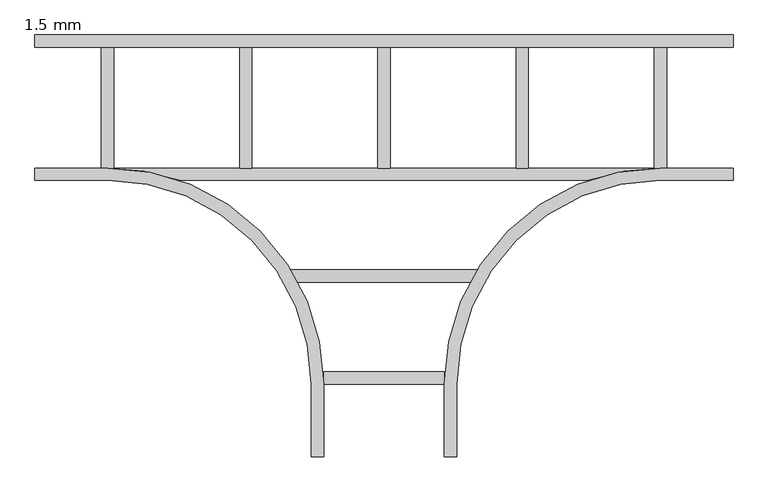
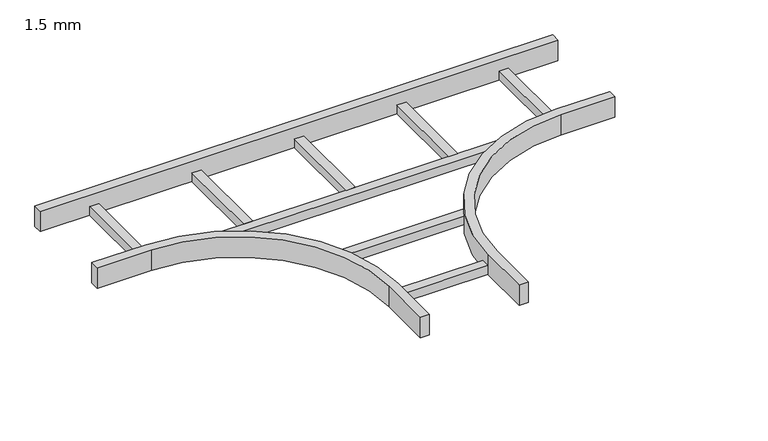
"""IFC4 building model written with IfcOpenShell, lengths in millimetres: cable carrier fitting geometry, BAKS_Trójnik_drabiny E90 : 1.5 mm."""

import ifcopenshell
import ifcopenshell.guid

model = None  # the IFC model being written
_history = None  # IfcOwnerHistory: only IFC2X3 demands one
_inside = {}  # id of a spatial element -> (the spatial element, [elements in it])
_under = {}  # id of a project, library or spatial element -> (it, [spatial elements below it])
_declared = {}  # id of a project -> (the project, [libraries it declares])
_typed = {}  # id of a type object -> (the type object, [elements of that type])
_made_of = {}  # id of a material, layer set ... -> (it, [elements and type objects made of it])


def new_model(schema):
    """Start an empty IFC model of exactly this schema.

    Asked for "IFC4X3", IfcOpenShell would pick the latest addendum, in which some entities
    have other attributes; the version numbers below select the first issue.
    IFC2X3 requires an IfcOwnerHistory on every rooted entity: one is made here for all.
    """
    global model, _history
    if schema == "IFC4X3":
        model = ifcopenshell.file(schema_version=(4, 3, 0, 0))
    else:
        model = ifcopenshell.file(schema=schema)
    _inside.clear()
    _under.clear()
    _declared.clear()
    _typed.clear()
    _made_of.clear()
    _history = None
    if model.schema == "IFC2X3":
        org = make("IfcOrganization", Name="unknown")
        user = make(
            "IfcPersonAndOrganization",
            ThePerson=make("IfcPerson", FamilyName="unknown"),
            TheOrganization=org,
        )
        app = make(
            "IfcApplication",
            ApplicationDeveloper=org,
            Version="unknown",
            ApplicationFullName="unknown",
            ApplicationIdentifier="unknown",
        )
        _history = make(
            "IfcOwnerHistory",
            OwningUser=user,
            OwningApplication=app,
            ChangeAction="ADDED",
            CreationDate=0,
        )
    return model


def make(cls, **values):
    """One entity of the class cls with the attributes given. An attribute that is None is left unset."""
    return model.create_entity(
        cls, **{name: value for name, value in values.items() if value is not None}
    )


def rooted(cls, **values):
    """An entity with a GlobalId (a new one), such as an element, a storey or a relation."""
    return make(cls, GlobalId=ifcopenshell.guid.new(), OwnerHistory=_history, **values)


def si_unit(unit_type, name, prefix=None):
    """IfcSIUnit, for example si_unit("LENGTHUNIT", "METRE", prefix="MILLI")."""
    return make("IfcSIUnit", UnitType=unit_type, Prefix=prefix, Name=name)


def assignment(units):
    """IfcUnitAssignment: the units of a project."""
    return None if units is None else make("IfcUnitAssignment", Units=units)


def point(xyz):
    """IfcCartesianPoint."""
    return None if xyz is None else make("IfcCartesianPoint", Coordinates=xyz)


def direction(xyz):
    """IfcDirection."""
    return None if xyz is None else make("IfcDirection", DirectionRatios=xyz)


def frame(location, z_axis=None, x_axis=None):
    """IfcAxis2Placement3D, a coordinate frame: its origin and axes. An axis left out is left unset."""
    return make(
        "IfcAxis2Placement3D",
        Location=point(location),
        Axis=direction(z_axis),
        RefDirection=direction(x_axis),
    )


def origin():
    """The frame at (0, 0, 0) with its axes left unset."""
    return frame((0.0, 0.0, 0.0))


def place(relative_to, where):
    """IfcLocalPlacement: puts the frame where relative to a parent placement (None: the world)."""
    return make(
        "IfcLocalPlacement", PlacementRelTo=relative_to, RelativePlacement=where
    )


def context(
    kind, dimensions, precision=None, world=None, true_north=None, identifier=None
):
    """IfcGeometricRepresentationContext, for example the 3D "Model" context."""
    return make(
        "IfcGeometricRepresentationContext",
        ContextIdentifier=identifier,
        ContextType=kind,
        CoordinateSpaceDimension=dimensions,
        Precision=precision,
        WorldCoordinateSystem=world,
        TrueNorth=true_north,
    )


def project(units=None, contexts=None):
    """IfcProject with its units and contexts."""
    return rooted(
        "IfcProject",
        Name="project",
        RepresentationContexts=contexts,
        UnitsInContext=assignment(units),
    )


def spatial(cls, under=None, at=None, **own):
    """A site, building, storey or space (cls), placed at a placement, below another one or the project."""
    s = rooted(cls, ObjectPlacement=at, **own)
    if under is not None:
        _under.setdefault(under.id(), (under, []))[1].append(s)
    return s


def polyline(points):
    """IfcPolyline through the points."""
    return make("IfcPolyline", Points=[point(p) for p in points])


def circle_curve(where, radius):
    """IfcCircle in the frame where."""
    return make("IfcCircle", Position=where, Radius=radius)


def outline(outer, holes=None, kind="AREA"):
    """IfcArbitraryClosedProfileDef: a profile drawn as a closed curve; with holes, ...WithVoids."""
    if holes is None:
        return make("IfcArbitraryClosedProfileDef", ProfileType=kind, OuterCurve=outer)
    return make(
        "IfcArbitraryProfileDefWithVoids",
        ProfileType=kind,
        OuterCurve=outer,
        InnerCurves=holes,
    )


def extrude(swept, where, along, depth):
    """IfcExtrudedAreaSolid: the profile swept, set in the frame where, extruded along a direction by depth."""
    return make(
        "IfcExtrudedAreaSolid",
        SweptArea=swept,
        Position=where,
        ExtrudedDirection=direction(along),
        Depth=depth,
    )


def faces_of(points, faces, orient=None, outer=None):
    """IfcFace entities. A face is a list of loops; a loop is a list of indices into points, from 0.

    orient and outer hold one flag for each loop. By default every Orientation is true, the
    first loop of a face is its IfcFaceOuterBound and the others are IfcFaceBound.
    """
    made = []
    for i, loops in enumerate(faces):
        bounds = []
        for j, loop in enumerate(loops):
            is_outer = j == 0 if outer is None else outer[i][j]
            bounds.append(
                make(
                    "IfcFaceOuterBound" if is_outer else "IfcFaceBound",
                    Bound=make("IfcPolyLoop", Polygon=[points[k] for k in loop]),
                    Orientation=True if orient is None else orient[i][j],
                )
            )
        made.append(make("IfcFace", Bounds=bounds))
    return made


def faceted_brep(points, faces, orient=None, outer=None, voids=None):
    """IfcFacetedBrep: a solid bounded by flat faces; with voids (closed shells), ...WithVoids."""
    shared = [point(p) for p in points]
    hull = make("IfcClosedShell", CfsFaces=faces_of(shared, faces, orient, outer))
    if voids is None:
        return make("IfcFacetedBrep", Outer=hull)
    return make(
        "IfcFacetedBrepWithVoids",
        Outer=hull,
        Voids=[
            make(cls, CfsFaces=faces_of(shared, fs, o, b)) for cls, fs, o, b in voids
        ],
    )


def shape(context_of_items, identifier, shape_type, items):
    """IfcShapeRepresentation: the items that make up one representation, for example the "Body"."""
    return make(
        "IfcShapeRepresentation",
        ContextOfItems=context_of_items,
        RepresentationIdentifier=identifier,
        RepresentationType=shape_type,
        Items=items,
    )


def source(mapping_origin, context_of_items, identifier, shape_type, items):
    """IfcRepresentationMap: a shape defined once, which mapped items show again and again."""
    return make(
        "IfcRepresentationMap",
        MappingOrigin=mapping_origin,
        MappedRepresentation=shape(context_of_items, identifier, shape_type, items),
    )


def transform(
    local_origin,
    x_axis=None,
    y_axis=None,
    z_axis=None,
    scale=None,
    scale2=None,
    scale3=None,
    uniform=True,
):
    """IfcCartesianTransformationOperator3D, or its non-uniform kind. x_axis, y_axis, z_axis: its Axis1, 2, 3."""
    if uniform:
        return make(
            "IfcCartesianTransformationOperator3D",
            Axis1=direction(x_axis),
            Axis2=direction(y_axis),
            LocalOrigin=point(local_origin),
            Scale=scale,
            Axis3=direction(z_axis),
        )
    return make(
        "IfcCartesianTransformationOperator3DnonUniform",
        Axis1=direction(x_axis),
        Axis2=direction(y_axis),
        LocalOrigin=point(local_origin),
        Scale=scale,
        Axis3=direction(z_axis),
        Scale2=scale2,
        Scale3=scale3,
    )


def mapped(mapping_source, mapping_target):
    """IfcMappedItem: shows the shape of a source again, moved by a transform."""
    return make(
        "IfcMappedItem", MappingSource=mapping_source, MappingTarget=mapping_target
    )


def made_of(thing, what):
    """Note that an element or type object is made of a material, layer set ...; save() writes the relation."""
    if what is not None:
        _made_of.setdefault(what.id(), (what, []))[1].append(thing)
    return thing


def element(
    cls,
    number,
    at=None,
    inside=None,
    cuts=None,
    type_object=None,
    material=None,
    context=None,
    identifier="Body",
    shape_type=None,
    held_by="IfcProductDefinitionShape",
    body=None,
    shapes=None,
    **own,
):
    """One element of the class cls, such as IfcWall. Its Tag is "e" and its number.

    at: its placement. inside: the storey or other place that contains it. cuts: it is an
    opening in that element (IfcRelVoidsElement). A single representation is given by context,
    identifier, shape_type and body (its items); several are given by shapes. held_by: the class
    of the entity that holds the representations. save() writes the other relations.
    """
    e = rooted(cls, Tag="e%d" % number, ObjectPlacement=at, **own)
    if body is not None:
        shapes = [shape(context, identifier, shape_type, body)]
    if shapes is not None:
        e.Representation = make(held_by, Representations=shapes)
    if inside is not None:
        _inside.setdefault(inside.id(), (inside, []))[1].append(e)
    if cuts is not None:
        rooted(
            "IfcRelVoidsElement", RelatingBuildingElement=cuts, RelatedOpeningElement=e
        )
    if type_object is not None:
        _typed.setdefault(type_object.id(), (type_object, []))[1].append(e)
    return made_of(e, material)


def aggregate(whole, parts):
    """IfcRelAggregates: a whole, such as a stair, and the parts it consists of."""
    return rooted("IfcRelAggregates", RelatingObject=whole, RelatedObjects=parts)


def save(model, path):
    """Write the relations noted so far, then the file.

    IfcRelAggregates (storeys below a building ...), IfcRelContainedInSpatialStructure (elements
    in a storey), IfcRelDefinesByType, IfcRelAssociatesMaterial and IfcRelDeclares: one each for
    every whole, place, type object, material and project.
    """
    for whole, parts in _under.values():
        aggregate(whole, parts)
    for where, things in _inside.values():
        rooted(
            "IfcRelContainedInSpatialStructure",
            RelatedElements=things,
            RelatingStructure=where,
        )
    for kind, things in _typed.values():
        rooted("IfcRelDefinesByType", RelatedObjects=things, RelatingType=kind)
    for what, things in _made_of.values():
        rooted("IfcRelAssociatesMaterial", RelatedObjects=things, RelatingMaterial=what)
    for by, libraries in _declared.values():
        rooted("IfcRelDeclares", RelatingContext=by, RelatedDefinitions=libraries)
    model.write(path)


def plane_surface(at):
    """IfcPlane: the flat surface through the origin of the frame at, square to its z axis."""
    return make("IfcPlane", Position=at)


def cylinder_surface(at, radius):
    """IfcCylindricalSurface: all points at the distance radius from the z axis of the frame at."""
    return make("IfcCylindricalSurface", Position=at, Radius=radius)


def revolved_surface(curve, axis_point, axis_direction):
    """IfcSurfaceOfRevolution: the curve turned about the line through axis_point along axis_direction."""
    return make(
        "IfcSurfaceOfRevolution",
        SweptCurve=make("IfcArbitraryOpenProfileDef", ProfileType="CURVE", Curve=curve),
        AxisPosition=make("IfcAxis1Placement", Location=point(axis_point), Axis=direction(axis_direction)),
    )


def advanced_brep(points, edges, surfaces, faces):
    """IfcAdvancedBrep: a solid bounded by faces that lie on surfaces and meet in shared edges.

    An edge is (start, end): straight between two places in points (the first is 0);
    or (start, end, curve); or (start, end, curve, False) where it runs against its curve.
    A face is (place in surfaces, loops), or (place, loops, False) where it looks against
    its surface's normal. A loop lists edges by number (the first is 1), with a minus sign
    where the edge is run from its end to its start. The first loop is the outer one.
    """
    corners = [point(p) for p in points]
    vertices = [make("IfcVertexPoint", VertexGeometry=c) for c in corners]
    made = []
    for start, end, *more in edges:
        made.append(
            make(
                "IfcEdgeCurve",
                EdgeStart=vertices[start],
                EdgeEnd=vertices[end],
                EdgeGeometry=more[0] if more else make("IfcPolyline", Points=[corners[start], corners[end]]),
                SameSense=more[1] if len(more) > 1 else True,
            )
        )
    hull = []
    for where, loops, *sense in faces:
        bounds = []
        for j, loop in enumerate(loops):
            ring = [make("IfcOrientedEdge", EdgeElement=made[abs(k) - 1], Orientation=k > 0) for k in loop]
            bounds.append(
                make(
                    "IfcFaceOuterBound" if j == 0 else "IfcFaceBound",
                    Bound=make("IfcEdgeLoop", EdgeList=ring),
                    Orientation=True,
                )
            )
        hull.append(make("IfcAdvancedFace", Bounds=bounds, FaceSurface=surfaces[where], SameSense=sense[0] if sense else True))
    return make("IfcAdvancedBrep", Outer=make("IfcClosedShell", CfsFaces=hull))


def cable_carrier_fitting_1_5_mm_8b0a73e9(model_context):
    return source(origin(), model_context, "Body", "SolidModel", [
        extrude(outline(polyline([(191.8889052, -334.6), (191.8889052, -360.0), (-191.8889052, -360.0), (-191.8889052, -334.6), (191.8889052, -334.6)])), frame((0.0, 0.0, -30.0), z_axis=(0.0, 0.0, 1.0), x_axis=(1.0, 0.0, 0.0)), (0.0, 0.0, 1.0), 25.4),
        extrude(outline(polyline([(124.6, -544.6), (124.6, -570.0), (-124.6, -570.0), (-124.6, -544.6), (124.6, -544.6)])), frame((0.0, 0.0, -30.0), z_axis=(0.0, 0.0, 1.0), x_axis=(1.0, 0.0, 0.0)), (0.0, 0.0, 1.0), 25.4),
        extrude(outline(polyline([(582.7, 124.6), (582.7, -124.6), (557.3, -124.6), (557.3, 124.6), (582.7, 124.6)])), frame((0.0, 0.0, -30.0), z_axis=(0.0, 0.0, 1.0), x_axis=(1.0, 0.0, 0.0)), (0.0, 0.0, 1.0), 25.4),
        extrude(outline(polyline([(297.7, 124.6), (297.7, -124.6), (272.3, -124.6), (272.3, 124.6), (297.7, 124.6)])), frame((0.0, 0.0, -30.0), z_axis=(0.0, 0.0, 1.0), x_axis=(1.0, 0.0, 0.0)), (0.0, 0.0, 1.0), 25.4),
        extrude(outline(polyline([(12.7, 124.6), (12.7, -124.6), (-12.7, -124.6), (-12.7, 124.6), (12.7, 124.6)])), frame((0.0, 0.0, -30.0), z_axis=(0.0, 0.0, 1.0), x_axis=(1.0, 0.0, 0.0)), (0.0, 0.0, 1.0), 25.4),
        extrude(outline(polyline([(-272.3, 124.6), (-272.3, -124.6), (-297.7, -124.6), (-297.7, 124.6), (-272.3, 124.6)])), frame((0.0, 0.0, -30.0), z_axis=(0.0, 0.0, 1.0), x_axis=(1.0, 0.0, 0.0)), (0.0, 0.0, 1.0), 25.4),
        extrude(outline(polyline([(-557.3, 124.6), (-557.3, -124.6), (-582.7, -124.6), (-582.7, 124.6), (-557.3, 124.6)])), frame((0.0, 0.0, -30.0), z_axis=(0.0, 0.0, 1.0), x_axis=(1.0, 0.0, 0.0)), (0.0, 0.0, 1.0), 25.4),
        advanced_brep(
        [(-150.0, -570.0, 30.0), (-150.0, -720.0, 30.0), (-124.6, -720.0, 30.0), (-124.6, -570.0, 30.0), (-570.0, -124.6, 30.0), (-720.0, -124.6, 30.0), (-720.0, -150.0, 30.0), (-570.0, -150.0, 30.0), (150.0, -570.0, 30.0), (570.0, -150.0, 30.0), (720.0, -150.0, 30.0), (720.0, -124.6, 30.0), (570.0, -124.6, 30.0), (124.6, -570.0, 30.0), (124.6, -720.0, 30.0), (150.0, -720.0, 30.0), (-150.0, -570.0, -30.0), (-570.0, -150.0, -30.0), (-720.0, -150.0, -30.0), (-720.0, -124.6, -30.0), (720.0, -124.6, -30.0), (720.0, -150.0, -30.0), (570.0, -150.0, -30.0), (150.0, -570.0, -30.0), (150.0, -720.0, -30.0), (124.6, -720.0, -30.0), (124.6, -570.0, -30.0), (421.7395535, -150.0, -30.0), (-421.7395535, -150.0, -30.0), (-124.6, -570.0, -30.0), (-124.6, -720.0, -30.0), (-150.0, -720.0, -30.0), (-421.7395535, -150.0, -4.6), (-570.0, -124.6, -4.6), (570.0, -124.6, -4.6), (-570.0, -150.0, -4.6), (570.0, -150.0, -4.6), (421.7395535, -150.0, -4.6)],
        [
            (0, 1),
            (1, 2),
            (2, 3),
            (3, 4, circle_curve(frame((-570.0, -570.0, 30.0), z_axis=(0.0, 0.0, 1.0), x_axis=(1.0, 0.0, 0.0)), 445.4)),
            (4, 5),
            (5, 6),
            (6, 7),
            (7, 0, circle_curve(frame((-570.0, -570.0, 30.0), z_axis=(0.0, 0.0, -1.0), x_axis=(1.0, 0.0, 0.0)), 420.0)),
            (8, 9, circle_curve(frame((570.0, -570.0, 30.0), z_axis=(0.0, 0.0, -1.0), x_axis=(1.0, 0.0, 0.0)), 420.0)),
            (9, 10),
            (10, 11),
            (11, 12),
            (12, 13, circle_curve(frame((570.0, -570.0, 30.0), z_axis=(0.0, 0.0, 1.0), x_axis=(1.0, 0.0, 0.0)), 445.4)),
            (13, 14),
            (14, 15),
            (15, 8),
            (16, 17, circle_curve(frame((-570.0, -570.0, -30.0), z_axis=(0.0, 0.0, 1.0), x_axis=(1.0, 0.0, 0.0)), 420.0)),
            (17, 18),
            (18, 19),
            (19, 20),
            (20, 21),
            (21, 22),
            (22, 23, circle_curve(frame((570.0, -570.0, -30.0), z_axis=(0.0, 0.0, 1.0), x_axis=(1.0, 0.0, 0.0)), 420.0)),
            (23, 24),
            (24, 25),
            (25, 26),
            (26, 27, circle_curve(frame((570.0, -570.0, -30.0), z_axis=(0.0, 0.0, -1.0), x_axis=(1.0, 0.0, 0.0)), 445.4)),
            (27, 28),
            (28, 29, circle_curve(frame((-570.0, -570.0, -30.0), z_axis=(0.0, 0.0, -1.0), x_axis=(1.0, 0.0, 0.0)), 445.4)),
            (29, 30),
            (30, 31),
            (31, 16),
            (0, 16),
            (31, 1),
            (30, 2),
            (29, 3),
            (28, 32),
            (32, 33, circle_curve(frame((-570.0, -570.0, -4.6), z_axis=(0.0, 0.0, 1.0), x_axis=(1.0, 0.0, 0.0)), 445.4)),
            (33, 4),
            (33, 34),
            (34, 12),
            (11, 20),
            (19, 5),
            (18, 6),
            (17, 35),
            (35, 7),
            (8, 23),
            (22, 36),
            (36, 9),
            (21, 10),
            (34, 37, circle_curve(frame((570.0, -570.0, -4.6), z_axis=(0.0, 0.0, 1.0), x_axis=(1.0, 0.0, 0.0)), 445.4)),
            (37, 27),
            (26, 13),
            (25, 14),
            (24, 15),
            (32, 37),
        ],
        [
            plane_surface(frame((-150.0, -570.0, 30.0), z_axis=(0.0, 0.0, 1.0), x_axis=(0.0, -1.0, 0.0))),
            plane_surface(frame((-150.0, -570.0, -30.0), z_axis=(0.0, 0.0, -1.0), x_axis=(0.0, 1.0, 0.0))),
            plane_surface(frame((-150.0, -570.0, 30.0), z_axis=(-1.0, 0.0, 0.0), x_axis=(0.0, 0.0, -1.0))),
            plane_surface(frame((-150.0, -720.0, 30.0), z_axis=(0.0, -1.0, 0.0), x_axis=(0.0, 0.0, -1.0))),
            plane_surface(frame((-124.6, -720.0, 30.0), z_axis=(1.0, 0.0, 0.0), x_axis=(0.0, 0.0, -1.0))),
            cylinder_surface(frame((-570.0, -570.0, -30.0), z_axis=(0.0, 0.0, 1.0), x_axis=(1.0, 0.0, 0.0)), 445.4),
            plane_surface(frame((-570.0, -124.6, 30.0), z_axis=(0.0, 1.0, 0.0), x_axis=(0.0, 0.0, -1.0))),
            plane_surface(frame((-720.0, -124.6, 30.0), z_axis=(-1.0, 0.0, 0.0), x_axis=(0.0, 0.0, -1.0))),
            plane_surface(frame((-720.0, -150.0, 30.0), z_axis=(0.0, -1.0, 0.0), x_axis=(0.0, 0.0, -1.0))),
            revolved_surface(polyline([(-150.0, -570.0, -30.0), (-150.0, -570.0, 30.0)]), (-570.0, -570.0, -30.0), (0.0, 0.0, -1.0)),
            revolved_surface(polyline([(990.0, -570.0, -30.0), (990.0, -570.0, 30.0)]), (570.0, -570.0, 0.0), (0.0, 0.0, -1.0)),
            plane_surface(frame((570.0, -150.0, 30.0), z_axis=(0.0, -1.0, 0.0), x_axis=(0.0, 0.0, -1.0))),
            plane_surface(frame((720.0, -150.0, 30.0), z_axis=(1.0, 0.0, 0.0), x_axis=(0.0, 0.0, -1.0))),
            cylinder_surface(frame((570.0, -570.0, 0.0), z_axis=(0.0, 0.0, 1.0), x_axis=(1.0, 0.0, 0.0)), 445.4),
            plane_surface(frame((124.6, -570.0, 30.0), z_axis=(-1.0, 0.0, 0.0), x_axis=(0.0, 0.0, -1.0))),
            plane_surface(frame((124.6, -720.0, 30.0), z_axis=(0.0, -1.0, 0.0), x_axis=(0.0, 0.0, -1.0))),
            plane_surface(frame((150.0, -720.0, 30.0), z_axis=(1.0, 0.0, 0.0), x_axis=(0.0, 0.0, -1.0))),
            plane_surface(frame((-570.0, -124.6, -4.6), z_axis=(0.0, 0.0, 1.0), x_axis=(-1.0, 0.0, 0.0))),
            plane_surface(frame((-570.0, -150.0, -4.6), z_axis=(0.0, -1.0, 0.0), x_axis=(0.0, 0.0, -1.0))),
        ],
        [
            (0, [[1, 2, 3, 4, 5, 6, 7, 8]]),
            (0, [[9, 10, 11, 12, 13, 14, 15, 16]]),
            (1, [[17, 18, 19, 20, 21, 22, 23, 24, 25, 26, 27, 28, 29, 30, 31, 32]]),
            (2, [[-1, 33, -32, 34]]),
            (3, [[-2, -34, -31, 35]]),
            (4, [[-3, -35, -30, 36]]),
            (5, [[-4, -36, -29, 37, 38, 39]]),
            (6, [[-5, -39, 40, 41, -12, 42, -20, 43]]),
            (7, [[-6, -43, -19, 44]]),
            (8, [[-7, -44, -18, 45, 46]]),
            (9, [[-8, -46, -45, -17, -33]]),
            (10, [[-9, 47, -23, 48, 49]]),
            (11, [[-10, -49, -48, -22, 50]]),
            (12, [[-11, -50, -21, -42]]),
            (13, [[-13, -41, 51, 52, -27, 53]]),
            (14, [[-14, -53, -26, 54]]),
            (15, [[-15, -54, -25, 55]]),
            (16, [[-16, -55, -24, -47]]),
            (17, [[-40, -38, 56, -51]]),
            (18, [[-28, -52, -56, -37]]),
        ],
    ),
        faceted_brep([(720.0, 150.0, 30.0), (-720.0, 150.0, 30.0), (-720.0, 124.6, 30.0), (720.0, 124.6, 30.0), (720.0, 150.0, -30.0), (720.0, 124.6, -30.0), (-720.0, 124.6, -30.0), (-720.0, 150.0, -30.0)], [[[0, 1, 2, 3]], [[4, 5, 6, 7]], [[1, 0, 4, 7]], [[2, 1, 7, 6]], [[3, 2, 6, 5]], [[0, 3, 5, 4]]]),
    ])


if __name__ == "__main__":
    model = new_model("IFC4")
    model_context = context("Model", 3, world=origin())
    ifc_project = project(units=[si_unit("LENGTHUNIT", "METRE", prefix="MILLI")], contexts=[model_context])
    site = spatial("IfcSite", under=ifc_project)
    building = spatial("IfcBuilding", under=site)
    placement = place(None, origin())
    cable_carrier_fitting_1_5_mm_shape = cable_carrier_fitting_1_5_mm_8b0a73e9(model_context)
    element("IfcCableCarrierFitting", 1, ObjectType="BAKS_Trójnik_drabiny E90 : 1.5 mm", at=placement, inside=building, context=model_context, shape_type="MappedRepresentation", body=[
        mapped(cable_carrier_fitting_1_5_mm_shape, transform((0.0, 0.0, 0.0), x_axis=(1.0, 0.0, 0.0), y_axis=(0.0, 1.0, 0.0), z_axis=(0.0, 0.0, 1.0))),
    ])
    save(model, "model.ifc")
